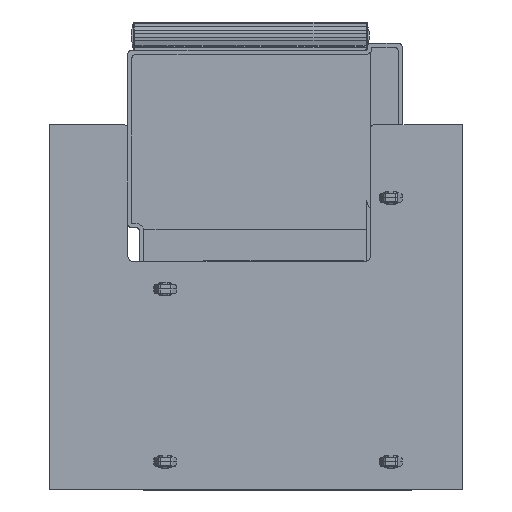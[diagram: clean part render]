
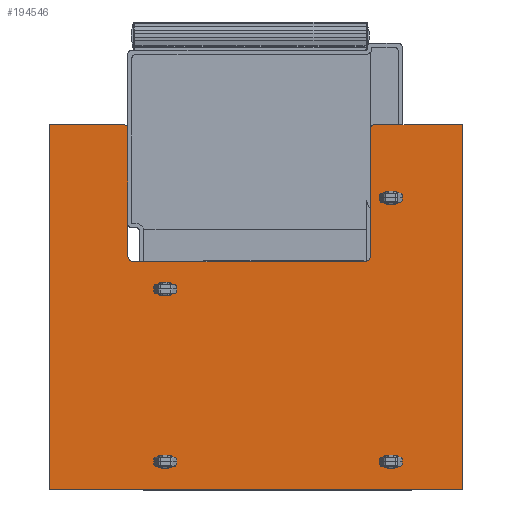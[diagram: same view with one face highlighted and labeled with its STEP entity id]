
A CAD part, front view. The second image highlights one B-rep face of the part: STEP entity #194546.
In plain terms, the highlighted planar face has unit normal (0, -1, 0).
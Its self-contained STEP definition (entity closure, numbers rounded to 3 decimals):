
#193751=DIRECTION('',(-1.,0.,0.));
#193752=VECTOR('',#193751,1.6);
#193753=CARTESIAN_POINT('',(100.2,-2.16,-465.9));
#193754=LINE('',#193753,#193752);
#193758=CARTESIAN_POINT('',(98.6,-2.16,-467.5));
#193759=DIRECTION('',(0.,-1.,0.));
#193760=DIRECTION('',(0.,0.,1.));
#193761=AXIS2_PLACEMENT_3D('',#193758,#193759,#193760);
#193766=DIRECTION('',(1.,0.,0.));
#193767=VECTOR('',#193766,1.6);
#193768=CARTESIAN_POINT('',(98.6,-2.16,-469.1));
#193769=LINE('',#193768,#193767);
#193773=CARTESIAN_POINT('',(100.2,-2.16,-467.5));
#193774=DIRECTION('',(0.,-1.,0.));
#193775=DIRECTION('',(0.,0.,-1.));
#193776=AXIS2_PLACEMENT_3D('',#193773,#193774,#193775);
#193781=DIRECTION('',(1.,0.,0.));
#193782=VECTOR('',#193781,1.6);
#193783=CARTESIAN_POINT('',(98.6,-2.16,-423.4));
#193784=LINE('',#193783,#193782);
#193788=CARTESIAN_POINT('',(98.6,-2.16,-425.));
#193789=DIRECTION('',(0.,1.,0.));
#193790=DIRECTION('',(0.,0.,-1.));
#193791=AXIS2_PLACEMENT_3D('',#193788,#193789,#193790);
#193796=DIRECTION('',(-1.,0.,0.));
#193797=VECTOR('',#193796,1.6);
#193798=CARTESIAN_POINT('',(100.2,-2.16,-426.6));
#193799=LINE('',#193798,#193797);
#193803=CARTESIAN_POINT('',(100.2,-2.16,-425.));
#193804=DIRECTION('',(0.,1.,0.));
#193805=DIRECTION('',(0.,0.,1.));
#193806=AXIS2_PLACEMENT_3D('',#193803,#193804,#193805);
#193811=CARTESIAN_POINT('',(44.6,-2.16,-425.));
#193812=DIRECTION('',(0.,1.,0.));
#193813=DIRECTION('',(0.,0.,1.));
#193814=AXIS2_PLACEMENT_3D('',#193811,#193812,#193813);
#193819=DIRECTION('',(1.,0.,0.));
#193820=VECTOR('',#193819,1.6);
#193821=CARTESIAN_POINT('',(43.,-2.16,-423.4));
#193822=LINE('',#193821,#193820);
#193826=CARTESIAN_POINT('',(43.,-2.16,-425.));
#193827=DIRECTION('',(0.,1.,0.));
#193828=DIRECTION('',(0.,0.,-1.));
#193829=AXIS2_PLACEMENT_3D('',#193826,#193827,#193828);
#193834=DIRECTION('',(-1.,0.,0.));
#193835=VECTOR('',#193834,1.6);
#193836=CARTESIAN_POINT('',(44.6,-2.16,-426.6));
#193837=LINE('',#193836,#193835);
#193841=CARTESIAN_POINT('',(44.6,-2.16,-490.));
#193842=DIRECTION('',(0.,1.,0.));
#193843=DIRECTION('',(0.,0.,1.));
#193844=AXIS2_PLACEMENT_3D('',#193841,#193842,#193843);
#193849=DIRECTION('',(1.,0.,0.));
#193850=VECTOR('',#193849,1.6);
#193851=CARTESIAN_POINT('',(43.,-2.16,-488.4));
#193852=LINE('',#193851,#193850);
#193856=CARTESIAN_POINT('',(43.,-2.16,-490.));
#193857=DIRECTION('',(0.,1.,0.));
#193858=DIRECTION('',(0.,0.,-1.));
#193859=AXIS2_PLACEMENT_3D('',#193856,#193857,#193858);
#193864=DIRECTION('',(-1.,0.,0.));
#193865=VECTOR('',#193864,1.6);
#193866=CARTESIAN_POINT('',(44.6,-2.16,-491.6));
#193867=LINE('',#193866,#193865);
#193871=CARTESIAN_POINT('',(47.77,-2.16,-507.));
#193872=DIRECTION('',(0.,-1.,0.));
#193873=DIRECTION('',(0.,0.,-1.));
#193874=AXIS2_PLACEMENT_3D('',#193871,#193872,#193873);
#193879=DIRECTION('',(1.,0.,0.));
#193880=VECTOR('',#193879,18.25);
#193881=CARTESIAN_POINT('',(109.62,-2.16,-508.));
#193882=LINE('',#193881,#193880);
#193886=CARTESIAN_POINT('',(109.62,-2.16,-507.));
#193887=DIRECTION('',(0.,-1.,0.));
#193888=DIRECTION('',(-1.,0.,0.));
#193889=AXIS2_PLACEMENT_3D('',#193886,#193887,#193888);
#193894=DIRECTION('',(0.,0.,1.));
#193895=VECTOR('',#193894,31.27);
#193896=CARTESIAN_POINT('',(108.62,-2.16,-507.));
#193897=LINE('',#193896,#193895);
#194177=DIRECTION('',(0.,0.,1.));
#194178=VECTOR('',#194177,31.27);
#194179=CARTESIAN_POINT('',(48.77,-2.16,-507.));
#194180=LINE('',#194179,#194178);
#194184=CARTESIAN_POINT('',(50.27,-2.16,-475.73));
#194185=DIRECTION('',(0.,1.,0.));
#194186=DIRECTION('',(-1.,0.,0.));
#194187=AXIS2_PLACEMENT_3D('',#194184,#194185,#194186);
#194221=DIRECTION('',(1.,0.,0.));
#194222=VECTOR('',#194221,56.85);
#194223=CARTESIAN_POINT('',(50.27,-2.16,-474.23));
#194224=LINE('',#194223,#194222);
#194228=CARTESIAN_POINT('',(107.12,-2.16,-475.73));
#194229=DIRECTION('',(0.,1.,0.));
#194230=DIRECTION('',(0.,0.,1.));
#194231=AXIS2_PLACEMENT_3D('',#194228,#194229,#194230);
#194293=DIRECTION('',(0.,0.,-1.));
#194294=VECTOR('',#194293,90.);
#194295=CARTESIAN_POINT('',(127.87,-2.16,-418.));
#194296=LINE('',#194295,#194294);
#194300=DIRECTION('',(1.,0.,0.));
#194301=VECTOR('',#194300,101.72);
#194302=CARTESIAN_POINT('',(26.15,-2.16,-418.));
#194303=LINE('',#194302,#194301);
#194321=DIRECTION('',(0.,0.,1.));
#194322=VECTOR('',#194321,90.);
#194323=CARTESIAN_POINT('',(26.15,-2.16,-508.));
#194324=LINE('',#194323,#194322);
#194342=DIRECTION('',(1.,0.,0.));
#194343=VECTOR('',#194342,21.62);
#194344=CARTESIAN_POINT('',(26.15,-2.16,-508.));
#194345=LINE('',#194344,#194343);
#194363=CARTESIAN_POINT('',(26.15,-2.16,-418.));
#194364=CARTESIAN_POINT('',(127.87,-2.16,-418.));
#194365=VERTEX_POINT('',#194363);
#194366=VERTEX_POINT('',#194364);
#194367=CARTESIAN_POINT('',(26.15,-2.16,-508.));
#194368=VERTEX_POINT('',#194367);
#194369=CARTESIAN_POINT('',(43.,-2.16,-423.4));
#194370=CARTESIAN_POINT('',(44.6,-2.16,-423.4));
#194371=VERTEX_POINT('',#194369);
#194372=VERTEX_POINT('',#194370);
#194373=CARTESIAN_POINT('',(43.,-2.16,-488.4));
#194374=CARTESIAN_POINT('',(44.6,-2.16,-488.4));
#194375=VERTEX_POINT('',#194373);
#194376=VERTEX_POINT('',#194374);
#194383=CARTESIAN_POINT('',(43.,-2.16,-426.6));
#194385=VERTEX_POINT('',#194383);
#194387=CARTESIAN_POINT('',(44.6,-2.16,-426.6));
#194388=VERTEX_POINT('',#194387);
#194393=CARTESIAN_POINT('',(43.,-2.16,-491.6));
#194395=VERTEX_POINT('',#194393);
#194399=CARTESIAN_POINT('',(44.6,-2.16,-491.6));
#194400=VERTEX_POINT('',#194399);
#194401=CARTESIAN_POINT('',(127.87,-2.16,-508.));
#194402=VERTEX_POINT('',#194401);
#194411=CARTESIAN_POINT('',(47.77,-2.16,-508.));
#194412=VERTEX_POINT('',#194411);
#194417=CARTESIAN_POINT('',(48.77,-2.16,-507.));
#194418=VERTEX_POINT('',#194417);
#194423=CARTESIAN_POINT('',(108.62,-2.16,-507.));
#194424=VERTEX_POINT('',#194423);
#194425=CARTESIAN_POINT('',(109.62,-2.16,-508.));
#194426=VERTEX_POINT('',#194425);
#194427=CARTESIAN_POINT('',(107.12,-2.16,-474.23));
#194429=VERTEX_POINT('',#194427);
#194431=CARTESIAN_POINT('',(108.62,-2.16,-475.73));
#194433=VERTEX_POINT('',#194431);
#194435=CARTESIAN_POINT('',(48.77,-2.16,-475.73));
#194437=VERTEX_POINT('',#194435);
#194439=CARTESIAN_POINT('',(50.27,-2.16,-474.23));
#194441=VERTEX_POINT('',#194439);
#194451=CARTESIAN_POINT('',(98.6,-2.16,-423.4));
#194452=CARTESIAN_POINT('',(100.2,-2.16,-423.4));
#194453=VERTEX_POINT('',#194451);
#194454=VERTEX_POINT('',#194452);
#194455=CARTESIAN_POINT('',(98.6,-2.16,-426.6));
#194456=VERTEX_POINT('',#194455);
#194457=CARTESIAN_POINT('',(100.2,-2.16,-426.6));
#194458=VERTEX_POINT('',#194457);
#194467=CARTESIAN_POINT('',(100.2,-2.16,-465.9));
#194468=CARTESIAN_POINT('',(98.6,-2.16,-465.9));
#194469=VERTEX_POINT('',#194467);
#194470=VERTEX_POINT('',#194468);
#194471=CARTESIAN_POINT('',(98.6,-2.16,-469.1));
#194472=VERTEX_POINT('',#194471);
#194473=CARTESIAN_POINT('',(100.2,-2.16,-469.1));
#194474=VERTEX_POINT('',#194473);
#194475=CARTESIAN_POINT('',(0.,-2.16,0.));
#194476=DIRECTION('',(0.,1.,0.));
#194477=DIRECTION('',(0.,0.,1.));
#194478=AXIS2_PLACEMENT_3D('',#194475,#194476,#194477);
#194479=PLANE('',#194478);
#194481=ORIENTED_EDGE('',*,*,#194480,.F.);
#194483=ORIENTED_EDGE('',*,*,#194482,.F.);
#194485=ORIENTED_EDGE('',*,*,#194484,.F.);
#194487=ORIENTED_EDGE('',*,*,#194486,.F.);
#194489=ORIENTED_EDGE('',*,*,#194488,.F.);
#194491=ORIENTED_EDGE('',*,*,#194490,.T.);
#194493=ORIENTED_EDGE('',*,*,#194492,.T.);
#194495=ORIENTED_EDGE('',*,*,#194494,.T.);
#194497=ORIENTED_EDGE('',*,*,#194496,.F.);
#194499=ORIENTED_EDGE('',*,*,#194498,.F.);
#194501=ORIENTED_EDGE('',*,*,#194500,.T.);
#194503=ORIENTED_EDGE('',*,*,#194502,.F.);
#194504=EDGE_LOOP('',(#194481,#194483,#194485,#194487,#194489,#194491,#194493,
#194495,#194497,#194499,#194501,#194503));
#194505=FACE_OUTER_BOUND('',#194504,.F.);
#194507=ORIENTED_EDGE('',*,*,#194506,.F.);
#194509=ORIENTED_EDGE('',*,*,#194508,.F.);
#194511=ORIENTED_EDGE('',*,*,#194510,.F.);
#194513=ORIENTED_EDGE('',*,*,#194512,.F.);
#194514=EDGE_LOOP('',(#194507,#194509,#194511,#194513));
#194515=FACE_BOUND('',#194514,.F.);
#194517=ORIENTED_EDGE('',*,*,#194516,.F.);
#194519=ORIENTED_EDGE('',*,*,#194518,.F.);
#194521=ORIENTED_EDGE('',*,*,#194520,.F.);
#194523=ORIENTED_EDGE('',*,*,#194522,.F.);
#194524=EDGE_LOOP('',(#194517,#194519,#194521,#194523));
#194525=FACE_BOUND('',#194524,.F.);
#194527=ORIENTED_EDGE('',*,*,#194526,.F.);
#194529=ORIENTED_EDGE('',*,*,#194528,.F.);
#194531=ORIENTED_EDGE('',*,*,#194530,.F.);
#194533=ORIENTED_EDGE('',*,*,#194532,.F.);
#194534=EDGE_LOOP('',(#194527,#194529,#194531,#194533));
#194535=FACE_BOUND('',#194534,.F.);
#194537=ORIENTED_EDGE('',*,*,#194536,.T.);
#194539=ORIENTED_EDGE('',*,*,#194538,.T.);
#194541=ORIENTED_EDGE('',*,*,#194540,.T.);
#194543=ORIENTED_EDGE('',*,*,#194542,.T.);
#194544=EDGE_LOOP('',(#194537,#194539,#194541,#194543));
#194545=FACE_BOUND('',#194544,.F.);
#193762=CIRCLE('',#193761,1.6);
#193777=CIRCLE('',#193776,1.6);
#193792=CIRCLE('',#193791,1.6);
#193807=CIRCLE('',#193806,1.6);
#193815=CIRCLE('',#193814,1.6);
#193830=CIRCLE('',#193829,1.6);
#193845=CIRCLE('',#193844,1.6);
#193860=CIRCLE('',#193859,1.6);
#193875=CIRCLE('',#193874,1.);
#193890=CIRCLE('',#193889,1.);
#194188=CIRCLE('',#194187,1.5);
#194232=CIRCLE('',#194231,1.5);
#194480=EDGE_CURVE('',#194441,#194429,#194224,.T.);
#194482=EDGE_CURVE('',#194437,#194441,#194188,.T.);
#194484=EDGE_CURVE('',#194418,#194437,#194180,.T.);
#194486=EDGE_CURVE('',#194412,#194418,#193875,.T.);
#194488=EDGE_CURVE('',#194368,#194412,#194345,.T.);
#194490=EDGE_CURVE('',#194368,#194365,#194324,.T.);
#194492=EDGE_CURVE('',#194365,#194366,#194303,.T.);
#194494=EDGE_CURVE('',#194366,#194402,#194296,.T.);
#194496=EDGE_CURVE('',#194426,#194402,#193882,.T.);
#194498=EDGE_CURVE('',#194424,#194426,#193890,.T.);
#194500=EDGE_CURVE('',#194424,#194433,#193897,.T.);
#194502=EDGE_CURVE('',#194429,#194433,#194232,.T.);
#194506=EDGE_CURVE('',#194453,#194454,#193784,.T.);
#194508=EDGE_CURVE('',#194456,#194453,#193792,.T.);
#194510=EDGE_CURVE('',#194458,#194456,#193799,.T.);
#194512=EDGE_CURVE('',#194454,#194458,#193807,.T.);
#194516=EDGE_CURVE('',#194372,#194388,#193815,.T.);
#194518=EDGE_CURVE('',#194371,#194372,#193822,.T.);
#194520=EDGE_CURVE('',#194385,#194371,#193830,.T.);
#194522=EDGE_CURVE('',#194388,#194385,#193837,.T.);
#194526=EDGE_CURVE('',#194376,#194400,#193845,.T.);
#194528=EDGE_CURVE('',#194375,#194376,#193852,.T.);
#194530=EDGE_CURVE('',#194395,#194375,#193860,.T.);
#194532=EDGE_CURVE('',#194400,#194395,#193867,.T.);
#194536=EDGE_CURVE('',#194469,#194470,#193754,.T.);
#194538=EDGE_CURVE('',#194470,#194472,#193762,.T.);
#194540=EDGE_CURVE('',#194472,#194474,#193769,.T.);
#194542=EDGE_CURVE('',#194474,#194469,#193777,.T.);
#194546=ADVANCED_FACE('',(#194505,#194515,#194525,#194535,#194545),#194479,.F.);
